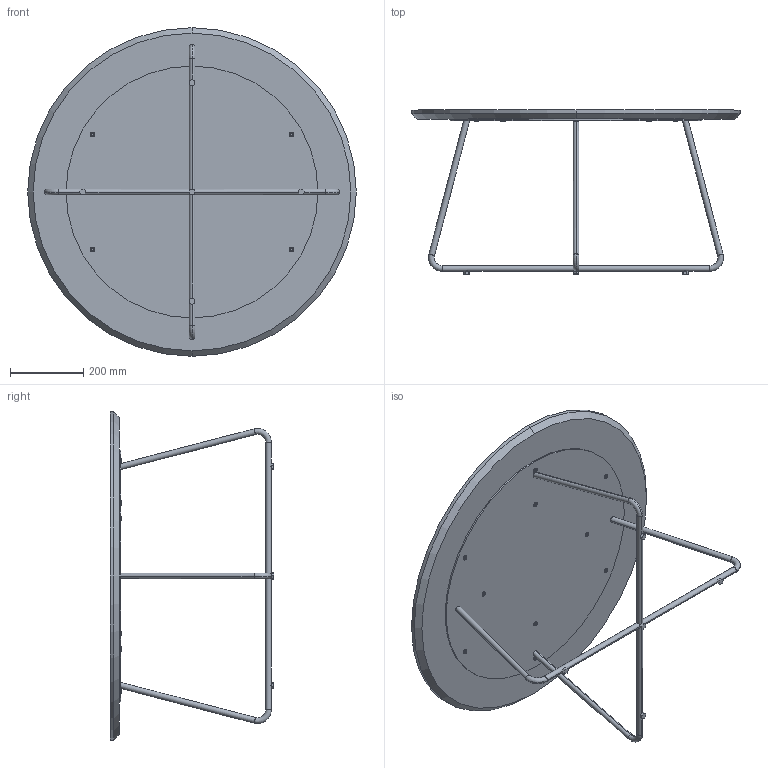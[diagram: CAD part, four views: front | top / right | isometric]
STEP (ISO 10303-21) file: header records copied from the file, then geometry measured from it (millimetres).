
FILE_DESCRIPTION (( 'STEP AP214' ), '1' );
FILE_NAME ('Cork Table - D900XH450.STEP', '2024-04-04T13:35:29', ( '' ), ( '' ), 'SwSTEP 2.0', 'SolidWorks 2023', '' );
FILE_SCHEMA (( 'AUTOMOTIVE_DESIGN' ));
Length unit declared in the file: millimetre
Products named in the file (7): Cork Table - D900XH450; Metal FrameR - 01R - O2_Default<As Machined>; 4 MM SheetR - 01R - O2; Wood insert nut_M6R - 01R - O2; M6x20MM Hex LevellerR - 01R - O2; M6x16MM Flate head allen BoltR - 01R - O2; Wooden TopR - 01R - O2
Assembly tree (28 placements, depth 2):
  Cork Table - D900XH450
    Wooden TopR - 01R - O2
    4 MM SheetR - 01R - O2
    Metal FrameR - 01R - O2_Default<As Machined>
    M6x16MM Flate head allen BoltR - 01R - O2  x10
    Wood insert nut_M6R - 01R - O2  x10
    M6x20MM Hex LevellerR - 01R - O2  x5
Bounding box: 900 x 449 x 900 mm (x, y, z)
Volume: 17730937.3 mm3; surface area: 2268254.9 mm2
Topology: 38 solids, 38 shells, 1277 faces, 3248 edges, 2082 vertices
Faces by surface type: cylinder 708, plane 359, torus 103, bspline 65, cone 42
Entity records: 12960 total; most frequent: CARTESIAN_POINT 6906, ORIENTED_EDGE 1204, DIRECTION 1158, EDGE_CURVE 602, AXIS2_PLACEMENT_3D 468, VERTEX_POINT 391, EDGE_LOOP 291, FACE_OUTER_BOUND 256
